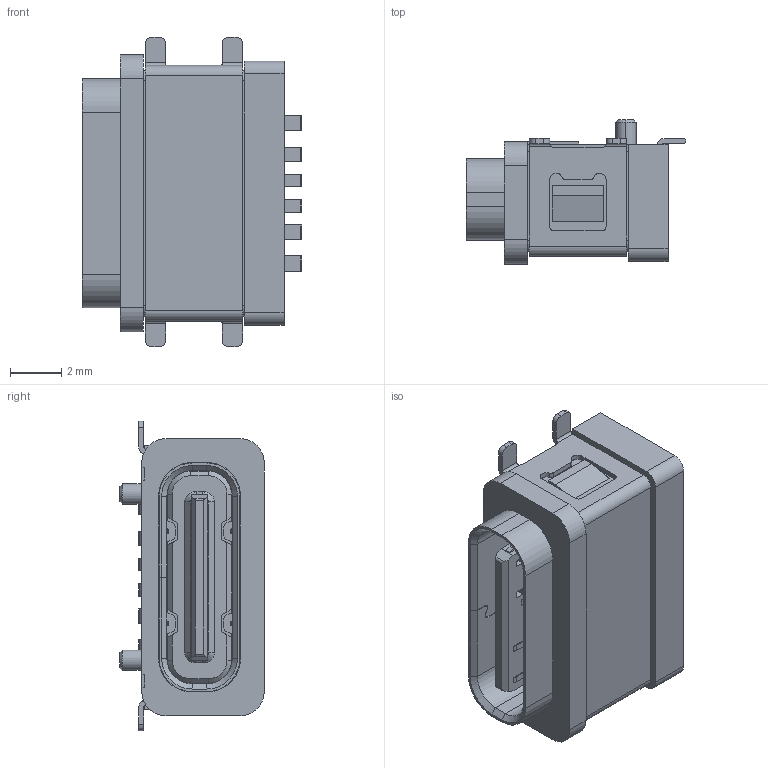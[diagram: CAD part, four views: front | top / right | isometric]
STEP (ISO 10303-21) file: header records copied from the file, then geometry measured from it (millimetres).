
FILE_DESCRIPTION((''),'2;1');
FILE_NAME('2335','2023-03-29T11:47:14',('Administrator'),(''),'CREO PARAMETRIC BY PTC INC, 2019080','CREO PARAMETRIC BY PTC INC, 2019080','');
FILE_SCHEMA(('CONFIG_CONTROL_DESIGN'));
Length unit declared in the file: millimetre
Products named in the file (1): 2335
Bounding box: 8.6 x 5.65 x 12.1 mm (x, y, z)
Surface area: 1778.6 mm2 (no closed solid volume)
Topology: 0 solids, 53 shells, 1063 faces, 3508 edges, 2522 vertices
Faces by surface type: plane 803, cylinder 228, cone 32
Entity records: 38259 total; most frequent: CARTESIAN_POINT 7247, DIRECTION 6252, ORIENTED_EDGE 6164, EDGE_CURVE 3508, VECTOR 2818, LINE 2818, VERTEX_POINT 2522, AXIS2_PLACEMENT_3D 1717
